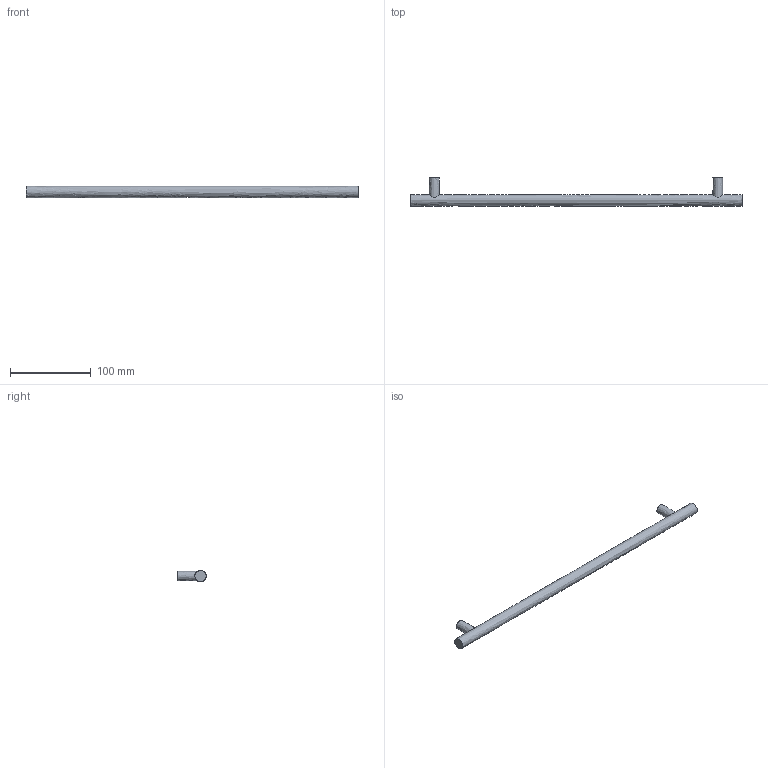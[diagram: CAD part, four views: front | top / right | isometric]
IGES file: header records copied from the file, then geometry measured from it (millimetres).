
Start section: Data from Parasolid IGES Translator 15.0.47, Copyright(c) 2006 Siemens P LM Software. All Rights Reserved.
Global section: file name: 9071055.igs; native system:  By UGS Corp.; preprocessor: XPlus GENERIC/IGES 3.0; author: Noname; organization: Noname; date: 20140122.181425; units: millimetre
Bounding box: 412 x 35 x 14 mm (x, y, z)
Surface area: 20400.4 mm2 (no closed solid volume)
Topology: 0 solids, 0 shells, 11 faces, 30 edges, 22 vertices
Faces by surface type: extrusion 6, revolution 5
